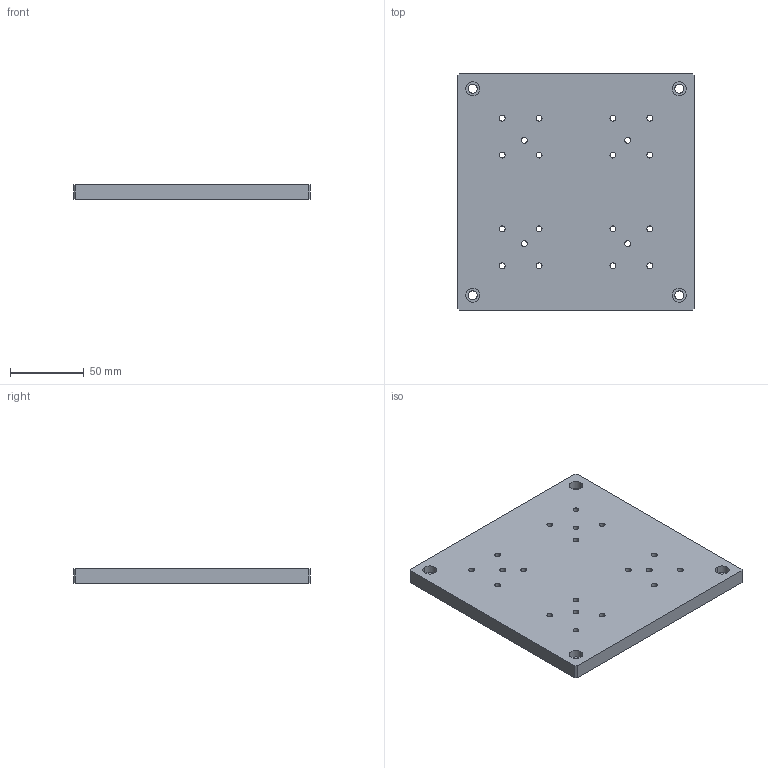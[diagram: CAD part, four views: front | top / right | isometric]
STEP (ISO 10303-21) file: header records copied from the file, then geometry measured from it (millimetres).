
FILE_DESCRIPTION( (''), '2;1');
FILE_NAME ('SPK-16.stp','2020-07-22T08:45:06',(''),(''),'spGate 15.6.6','','');
FILE_SCHEMA (('AUTOMOTIVE_DESIGN'));
Length unit declared in the file: millimetre
Products named in the file (2): Assembly; SPK-16-prt0
Assembly tree (1 placements, depth 2):
  Assembly
    SPK-16-prt0
Bounding box: 160 x 160 x 10 mm (x, y, z)
Volume: 251398.4 mm3; surface area: 60352.9 mm2
Topology: 1 solids, 1 shells, 70 faces, 192 edges, 128 vertices
Faces by surface type: cylinder 56, plane 14
Entity records: 3840 total; most frequent: CARTESIAN_POINT 450, DIRECTION 396, ORIENTED_EDGE 384, COLOUR_RGB 263, PRESENTATION_STYLE_ASSIGNMENT 263, STYLED_ITEM 263, EDGE_CURVE 192, DRAUGHTING_PRE_DEFINED_CURVE_FONT 192
